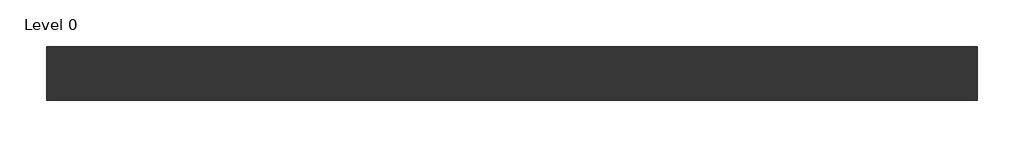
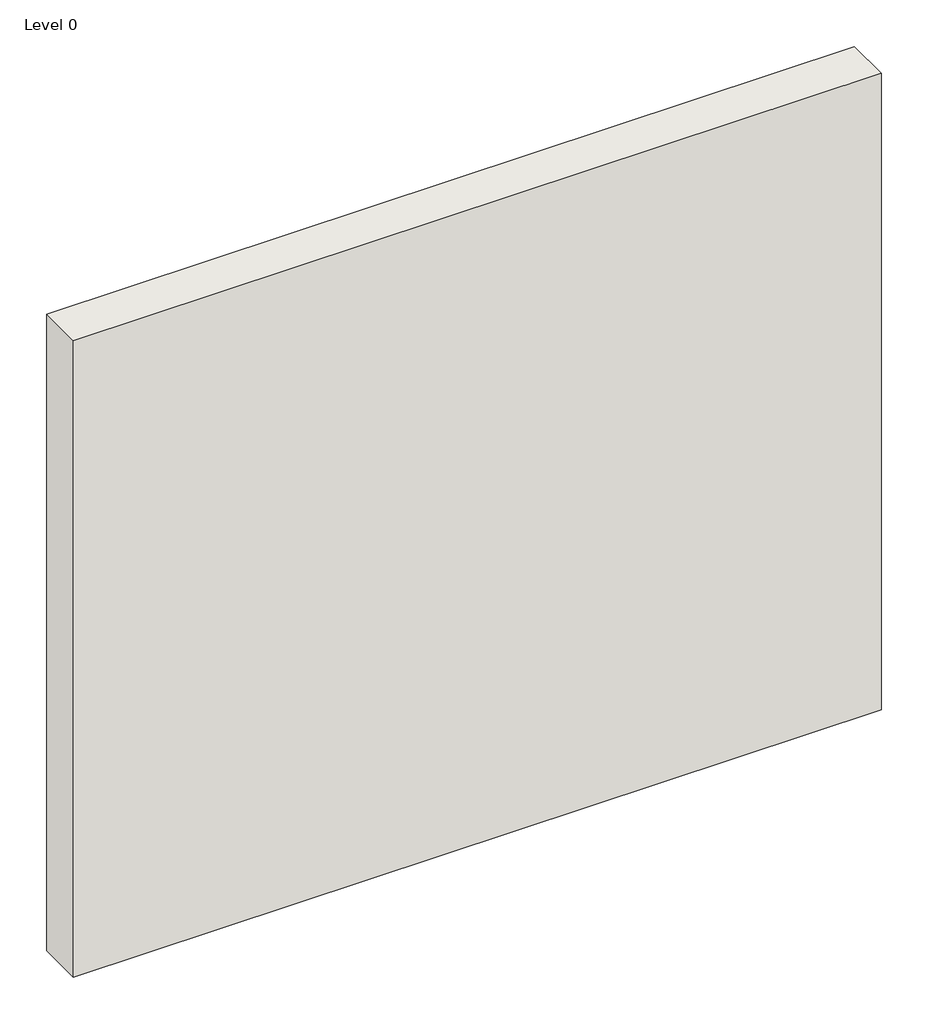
# One storey: 1 wall.
"""IFC4 building model written with IfcOpenShell, lengths in millimetres."""

from ifc_helpers import new_model, si_unit, origin, origin_with_axes, place, context, project, spatial, polyline, outline, extrude, element, save

model = new_model("IFC4")

# Units and contexts
model_context = context("Model", 3, world=origin())
ifc_project = project(units=[si_unit("LENGTHUNIT", "METRE", prefix="MILLI")], contexts=[model_context])

# Site, building, storey
site = spatial("IfcSite", under=ifc_project)
building = spatial("IfcBuilding", under=site)
storey = spatial("IfcBuildingStorey", under=building, Name="Level 0", Elevation=0.0)

# Wall
placement = place(None, origin())
element("IfcWall", 1, ObjectType="A306008 - ShaftWall", at=placement, inside=storey, context=model_context, shape_type="SweptSolid", body=[
    extrude(outline(polyline([(2116.0807354, 507.2205641), (-883.9192646, 507.2205641), (-883.9192646, 680.2205641), (2116.0807354, 680.2205641), (2116.0807354, 507.2205641)])), origin_with_axes(), (0.0, 0.0, 1.0), 2500.0),
])

save(model, "model.ifc")
